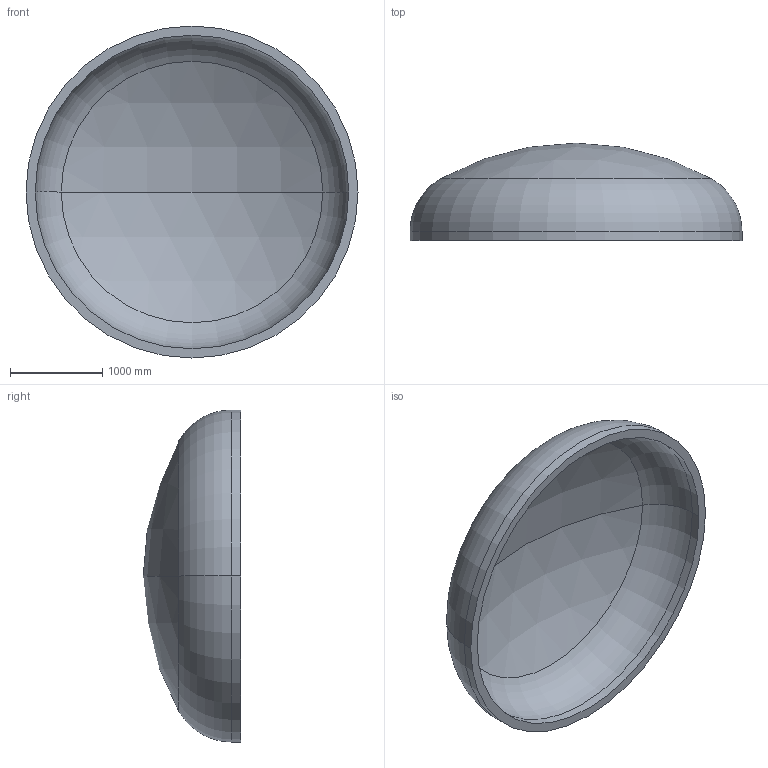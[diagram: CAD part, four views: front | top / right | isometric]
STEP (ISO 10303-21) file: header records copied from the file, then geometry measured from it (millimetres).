
FILE_DESCRIPTION (( 'STEP AP203' ), '1' );
FILE_NAME ('DIN 28013 Korbbogenform_-_Boden DIN 28013 - 3600 x 100 - I - s=100.step', '2016-07-01T20:49:02', ( '' ), ( '' ), 'SwSTEP 2.0', 'SolidWorks 2013', '' );
FILE_SCHEMA (( 'CONFIG_CONTROL_DESIGN' ));
Length unit declared in the file: millimetre
Products named in the file (1): DIN 28013 Korbbogenform_-_Boden DIN 28013 - 3600 x 100 - I - s=100
Bounding box: 3600 x 1056.49 x 3600 mm (x, y, z)
Volume: 1469664563.1 mm3; surface area: 30513782.8 mm2
Topology: 1 solids, 1 shells, 13 faces, 24 edges, 14 vertices
Faces by surface type: torus 4, cylinder 4, sphere 4, plane 1
Entity records: 407 total; most frequent: DIRECTION 72, CARTESIAN_POINT 52, ORIENTED_EDGE 48, AXIS2_PLACEMENT_3D 34, EDGE_CURVE 24, CIRCLE 20, VERTEX_POINT 14, EDGE_LOOP 14
